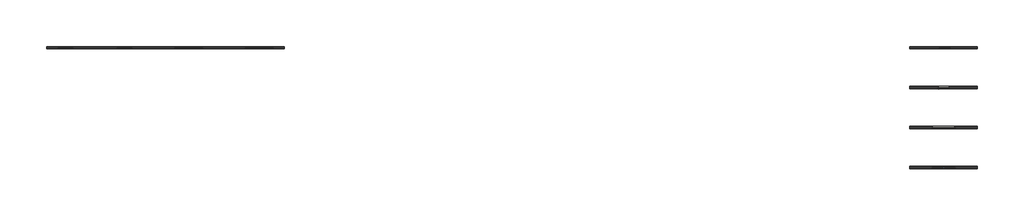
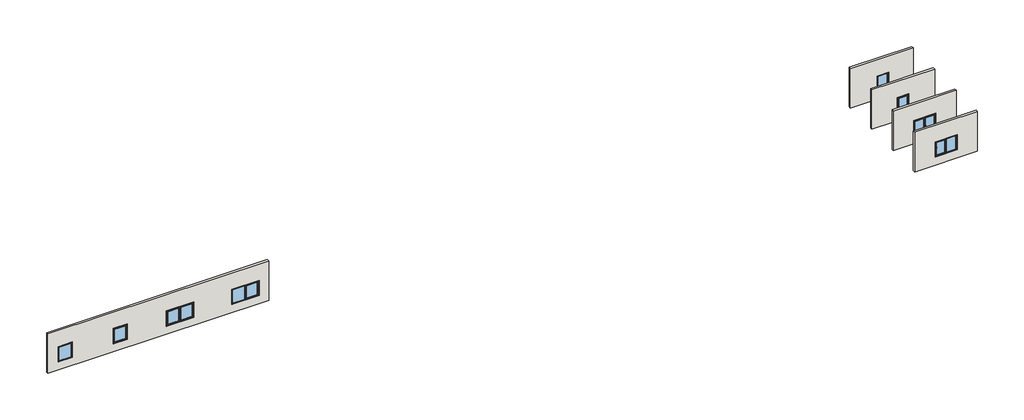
# One storey: 8 windows, 5 walls.
"""IFC4 building model written with IfcOpenShell, lengths in millimetres."""

from ifc_helpers import new_model, si_unit, origin, place, context, project, spatial, faceted_brep, transform, mapped, element, save
from components import window_3e6d08a6, window_15dccdcc, window_7635d953, window_dae34335, window_5ffe221b, window_7be41690, window_c8762d69, window_15d47e13

model = new_model("IFC4")

# Units and contexts
model_context = context("Model", 3, world=origin())
ifc_project = project(units=[si_unit("LENGTHUNIT", "METRE", prefix="MILLI")], contexts=[model_context])

# Site, building, storey
site = spatial("IfcSite", under=ifc_project)
building = spatial("IfcBuilding", under=site)
storey = spatial("IfcBuildingStorey", under=building, Name="REY 01 - Overview Windows", Elevation=0.0)

# Walls
placement = place(None, origin())
element("IfcWall", 1, ObjectType="21_SPM_90-30-80-140-10", at=placement, inside=storey, context=model_context, shape_type="Brep", body=[
    faceted_brep([(-8715.6752344, 9335.7590232, 0.0), (12384.3247656, 9335.7590232, 0.0), (12384.3247656, 9335.7590232, 4000.0), (-8715.6752344, 9335.7590232, 4000.0), (-1103.1752344, 9335.7590232, 800.0), (-2453.1752344, 9335.7590232, 800.0), (-2453.1752344, 9335.7590232, 2350.0), (-1103.1752344, 9335.7590232, 2350.0), (-6355.6752344, 9335.7590232, 800.0), (-7705.6752344, 9335.7590232, 800.0), (-7705.6752344, 9335.7590232, 2350.0), (-6355.6752344, 9335.7590232, 2350.0), (5221.8247656, 9335.7590232, 800.0), (2621.8247656, 9335.7590232, 800.0), (2621.8247656, 9335.7590232, 2350.0), (5221.8247656, 9335.7590232, 2350.0), (8871.8247656, 9335.7590232, 2350.0), (11471.8247656, 9335.7590232, 2350.0), (11471.8247656, 9335.7590232, 820.0), (8871.8247656, 9335.7590232, 820.0), (-8715.6752344, 9535.7590232, 0.0), (-8715.6752344, 9535.7590232, 4000.0), (12384.3247656, 9535.7590232, 4000.0), (12384.3247656, 9535.7590232, 0.0), (-1153.1752344, 9535.7590232, 2300.0), (-2403.1752344, 9535.7590232, 2300.0), (-2403.1752344, 9535.7590232, 800.0), (-1153.1752344, 9535.7590232, 800.0), (-6405.6752344, 9535.7590232, 2300.0), (-7655.6752344, 9535.7590232, 2300.0), (-7655.6752344, 9535.7590232, 800.0), (-6405.6752344, 9535.7590232, 800.0), (5171.8247656, 9535.7590232, 2300.0), (2671.8247656, 9535.7590232, 2300.0), (2671.8247656, 9535.7590232, 800.0), (5171.8247656, 9535.7590232, 800.0), (11421.8247656, 9535.7590232, 2300.0), (8921.8247656, 9535.7590232, 2300.0), (8921.8247656, 9535.7590232, 800.0), (11421.8247656, 9535.7590232, 800.0), (-1153.1752344, 9445.7590232, 2300.0), (-2403.1752344, 9445.7590232, 2300.0), (-2403.1752344, 9445.7590232, 800.0), (-2453.1752344, 9445.7590232, 800.0), (-1103.1752344, 9445.7590232, 800.0), (-1153.1752344, 9445.7590232, 800.0), (-2453.1752344, 9445.7590232, 2350.0), (-1103.1752344, 9445.7590232, 2350.0), (-6405.6752344, 9445.7590232, 2300.0), (-7655.6752344, 9445.7590232, 2300.0), (-7655.6752344, 9445.7590232, 800.0), (-7705.6752344, 9445.7590232, 800.0), (-6355.6752344, 9445.7590232, 800.0), (-6405.6752344, 9445.7590232, 800.0), (-6355.6752344, 9445.7590232, 2350.0), (-7705.6752344, 9445.7590232, 2350.0), (5171.8247656, 9445.7590232, 2300.0), (2671.8247656, 9445.7590232, 2300.0), (2671.8247656, 9445.7590232, 800.0), (2621.8247656, 9445.7590232, 800.0), (5221.8247656, 9445.7590232, 800.0), (5171.8247656, 9445.7590232, 800.0), (5221.8247656, 9445.7590232, 2350.0), (2621.8247656, 9445.7590232, 2350.0), (11421.8247656, 9445.7590232, 2300.0), (8921.8247656, 9445.7590232, 2300.0), (8921.8247656, 9445.7590232, 800.0), (11421.8247656, 9445.7590232, 800.0), (11421.8247656, 9445.7590232, 820.0), (8921.8247656, 9445.7590232, 820.0), (8871.8247656, 9445.7590232, 2350.0), (11471.8247656, 9445.7590232, 2350.0), (11471.8247656, 9445.7590232, 820.0), (8871.8247656, 9445.7590232, 820.0)], [[[0, 1, 2, 3], [4, 5, 6, 7], [8, 9, 10, 11], [12, 13, 14, 15], [16, 17, 18, 19]], [[20, 21, 22, 23], [24, 25, 26, 27], [28, 29, 30, 31], [32, 33, 34, 35], [36, 37, 38, 39]], [[1, 0, 20, 23]], [[2, 1, 23, 22]], [[3, 2, 22, 21]], [[0, 3, 21, 20]], [[25, 24, 40, 41]], [[27, 26, 42, 43, 5, 4, 44, 45]], [[24, 27, 45, 40]], [[41, 42, 26, 25]], [[46, 47, 7, 6]], [[46, 43, 42, 41, 40, 45, 44, 47]], [[47, 44, 4, 7]], [[6, 5, 43, 46]], [[28, 48, 49, 29]], [[30, 50, 51, 9, 8, 52, 53, 31]], [[29, 49, 50, 30]], [[48, 28, 31, 53]], [[54, 11, 10, 55]], [[54, 55, 51, 50, 49, 48, 53, 52]], [[55, 10, 9, 51]], [[11, 54, 52, 8]], [[32, 56, 57, 33]], [[34, 58, 59, 13, 12, 60, 61, 35]], [[33, 57, 58, 34]], [[56, 32, 35, 61]], [[62, 15, 14, 63]], [[62, 63, 59, 58, 57, 56, 61, 60]], [[63, 14, 13, 59]], [[15, 62, 60, 12]], [[37, 36, 64, 65]], [[39, 38, 66, 67]], [[36, 39, 67, 68, 64]], [[66, 69, 68, 67]], [[65, 69, 66, 38, 37]], [[70, 71, 17, 16]], [[72, 68, 69, 73, 19, 18]], [[70, 73, 69, 65, 64, 68, 72, 71]], [[71, 72, 18, 17]], [[16, 19, 73, 70]]]),
])
element("IfcWall", 2, ObjectType="21_SPM_90-30-80-140-10", at=placement, inside=storey, context=model_context, shape_type="Brep", body=[
    faceted_brep([(67971.8247656, 5787.8975638, 0.0), (73971.8247656, 5787.8975638, 0.0), (73971.8247656, 5787.8975638, 4000.0), (67971.8247656, 5787.8975638, 4000.0), (71521.8247656, 5787.8975638, 800.0), (70421.8247656, 5787.8975638, 800.0), (70421.8247656, 5787.8975638, 2350.0), (71521.8247656, 5787.8975638, 2350.0), (67971.8247656, 5987.8975638, 0.0), (67971.8247656, 5987.8975638, 4000.0), (73971.8247656, 5987.8975638, 4000.0), (73971.8247656, 5987.8975638, 0.0), (71471.8247656, 5987.8975638, 2300.0), (70471.8247656, 5987.8975638, 2300.0), (70471.8247656, 5987.8975638, 800.0), (71471.8247656, 5987.8975638, 800.0), (71471.8247656, 5897.8975638, 2300.0), (70471.8247656, 5897.8975638, 2300.0), (70471.8247656, 5897.8975638, 800.0), (70421.8247656, 5897.8975638, 800.0), (71521.8247656, 5897.8975638, 800.0), (71471.8247656, 5897.8975638, 800.0), (71521.8247656, 5897.8975638, 2350.0), (70421.8247656, 5897.8975638, 2350.0)], [[[0, 1, 2, 3], [4, 5, 6, 7]], [[8, 9, 10, 11], [12, 13, 14, 15]], [[1, 0, 8, 11]], [[2, 1, 11, 10]], [[3, 2, 10, 9]], [[0, 3, 9, 8]], [[12, 16, 17, 13]], [[14, 18, 19, 5, 4, 20, 21, 15]], [[13, 17, 18, 14]], [[16, 12, 15, 21]], [[22, 7, 6, 23]], [[22, 23, 19, 18, 17, 16, 21, 20]], [[23, 6, 5, 19]], [[7, 22, 20, 4]]]),
])
element("IfcWall", 3, ObjectType="21_SPM_90-30-80-140-10", at=placement, inside=storey, context=model_context, shape_type="Brep", body=[
    faceted_brep([(67971.8247656, 9335.7590232, 0.0), (73971.8247656, 9335.7590232, 0.0), (73971.8247656, 9335.7590232, 4000.0), (67971.8247656, 9335.7590232, 4000.0), (71621.8247656, 9335.7590232, 800.0), (70521.8247656, 9335.7590232, 800.0), (70521.8247656, 9335.7590232, 2350.0), (71621.8247656, 9335.7590232, 2350.0), (67971.8247656, 9535.7590232, 0.0), (67971.8247656, 9535.7590232, 4000.0), (73971.8247656, 9535.7590232, 4000.0), (73971.8247656, 9535.7590232, 0.0), (71571.8247656, 9535.7590232, 2300.0), (70571.8247656, 9535.7590232, 2300.0), (70571.8247656, 9535.7590232, 800.0), (71571.8247656, 9535.7590232, 800.0), (71571.8247656, 9445.7590232, 2300.0), (70571.8247656, 9445.7590232, 2300.0), (70571.8247656, 9445.7590232, 800.0), (70521.8247656, 9445.7590232, 800.0), (71621.8247656, 9445.7590232, 800.0), (71571.8247656, 9445.7590232, 800.0), (71621.8247656, 9445.7590232, 2350.0), (70521.8247656, 9445.7590232, 2350.0)], [[[0, 1, 2, 3], [4, 5, 6, 7]], [[8, 9, 10, 11], [12, 13, 14, 15]], [[1, 0, 8, 11]], [[2, 1, 11, 10]], [[3, 2, 10, 9]], [[0, 3, 9, 8]], [[12, 16, 17, 13]], [[14, 18, 19, 5, 4, 20, 21, 15]], [[13, 17, 18, 14]], [[16, 12, 15, 21]], [[22, 7, 6, 23]], [[22, 23, 19, 18, 17, 16, 21, 20]], [[23, 6, 5, 19]], [[7, 22, 20, 4]]]),
])
element("IfcWall", 4, ObjectType="21_SPM_90-30-80-140-10", at=placement, inside=storey, context=model_context, shape_type="Brep", body=[
    faceted_brep([(67971.8247656, -1312.1024362, 0.0), (73971.8247656, -1312.1024362, 0.0), (73971.8247656, -1312.1024362, 4000.0), (67971.8247656, -1312.1024362, 4000.0), (69921.8247656, -1312.1024362, 2350.0), (72021.8247656, -1312.1024362, 2350.0), (72021.8247656, -1312.1024362, 820.0), (69921.8247656, -1312.1024362, 820.0), (67971.8247656, -1112.1024362, 0.0), (67971.8247656, -1112.1024362, 4000.0), (73971.8247656, -1112.1024362, 4000.0), (73971.8247656, -1112.1024362, 0.0), (71971.8247656, -1112.1024362, 2300.0), (69971.8247656, -1112.1024362, 2300.0), (69971.8247656, -1112.1024362, 800.0), (71971.8247656, -1112.1024362, 800.0), (71971.8247656, -1202.1024362, 2300.0), (69971.8247656, -1202.1024362, 2300.0), (69971.8247656, -1202.1024362, 800.0), (71971.8247656, -1202.1024362, 800.0), (69971.8247656, -1202.1024362, 820.0), (71971.8247656, -1202.1024362, 820.0), (72021.8247656, -1202.1024362, 2350.0), (69921.8247656, -1202.1024362, 2350.0), (69921.8247656, -1202.1024362, 820.0), (72021.8247656, -1202.1024362, 820.0)], [[[0, 1, 2, 3], [4, 5, 6, 7]], [[8, 9, 10, 11], [12, 13, 14, 15]], [[1, 0, 8, 11]], [[2, 1, 11, 10]], [[3, 2, 10, 9]], [[0, 3, 9, 8]], [[12, 16, 17, 13]], [[14, 18, 19, 15]], [[13, 17, 20, 18, 14]], [[19, 18, 20, 21]], [[16, 12, 15, 19, 21]], [[22, 5, 4, 23]], [[24, 7, 6, 25, 21, 20]], [[22, 23, 24, 20, 17, 16, 21, 25]], [[23, 4, 7, 24]], [[5, 22, 25, 6]]]),
])
element("IfcWall", 5, ObjectType="21_SPM_90-30-80-140-10", at=placement, inside=storey, context=model_context, shape_type="Brep", body=[
    faceted_brep([(67971.8247656, 2235.7590232, 0.0), (73971.8247656, 2235.7590232, 0.0), (73971.8247656, 2235.7590232, 4000.0), (67971.8247656, 2235.7590232, 4000.0), (72021.8247656, 2235.7590232, 800.0), (69921.8247656, 2235.7590232, 800.0), (69921.8247656, 2235.7590232, 2350.0), (72021.8247656, 2235.7590232, 2350.0), (67971.8247656, 2435.7590232, 0.0), (67971.8247656, 2435.7590232, 4000.0), (73971.8247656, 2435.7590232, 4000.0), (73971.8247656, 2435.7590232, 0.0), (71971.8247656, 2435.7590232, 2300.0), (69971.8247656, 2435.7590232, 2300.0), (69971.8247656, 2435.7590232, 800.0), (71971.8247656, 2435.7590232, 800.0), (71971.8247656, 2345.7590232, 2300.0), (69971.8247656, 2345.7590232, 2300.0), (69971.8247656, 2345.7590232, 800.0), (69921.8247656, 2345.7590232, 800.0), (72021.8247656, 2345.7590232, 800.0), (71971.8247656, 2345.7590232, 800.0), (72021.8247656, 2345.7590232, 2350.0), (69921.8247656, 2345.7590232, 2350.0)], [[[0, 1, 2, 3], [4, 5, 6, 7]], [[8, 9, 10, 11], [12, 13, 14, 15]], [[1, 0, 8, 11]], [[2, 1, 11, 10]], [[3, 2, 10, 9]], [[0, 3, 9, 8]], [[12, 16, 17, 13]], [[14, 18, 19, 5, 4, 20, 21, 15]], [[13, 17, 18, 14]], [[16, 12, 15, 21]], [[22, 7, 6, 23]], [[22, 23, 19, 18, 17, 16, 21, 20]], [[23, 6, 5, 19]], [[7, 22, 20, 4]]]),
])

# Windows
window_shape = window_3e6d08a6(model_context)
element("IfcWindow", 6, ObjectType="Reynaers_MasterLine 10_Window_Inward Opening_Single Vent : Reynaers_Masterline 10_Window_Inward Opening_Single Vent", at=placement, inside=storey, context=model_context, shape_type="MappedRepresentation", body=[
    mapped(window_shape, transform((-1778.1752344, 9435.7590232, 0.0), x_axis=(-1.0, 0.0, 0.0), y_axis=(0.0, -1.0, 0.0), z_axis=(0.0, 0.0, 1.0))),
])
window_2_shape = window_15dccdcc(model_context)
element("IfcWindow", 7, ObjectType="Reynaers_MasterLine 10_Window_Inward Opening_Single Vent : Reynaers_Masterline 10_Window_Inward Opening_Single Vent", at=placement, inside=storey, context=model_context, shape_type="MappedRepresentation", body=[
    mapped(window_2_shape, transform((70971.8247656, 5887.8975638, 0.0), x_axis=(1.0, 0.0, 0.0), y_axis=(0.0, 1.0, 0.0), z_axis=(0.0, 0.0, 1.0))),
])
window_3_shape = window_7635d953(model_context)
element("IfcWindow", 8, ObjectType="Reynaers_MasterLine 10_Window_Fixed_Single Vent : Reynaers_MasterLine 10_Window_Fixed_Single Vent", at=placement, inside=storey, context=model_context, shape_type="MappedRepresentation", body=[
    mapped(window_3_shape, transform((-7030.6752344, 9430.9590232, 0.0), x_axis=(1.0, 0.0, 0.0), y_axis=(0.0, 1.0, 0.0), z_axis=(0.0, 0.0, 1.0))),
])
window_4_shape = window_dae34335(model_context)
element("IfcWindow", 9, ObjectType="Reynaers_MasterLine 10_Window_Fixed_Single Vent : Reynaers_MasterLine 10_Window_Fixed_Single Vent", at=placement, inside=storey, context=model_context, shape_type="MappedRepresentation", body=[
    mapped(window_4_shape, transform((71071.8247656, 9430.9590232, 0.0), x_axis=(1.0, 0.0, 0.0), y_axis=(0.0, 1.0, 0.0), z_axis=(0.0, 0.0, 1.0))),
])
window_5_shape = window_5ffe221b(model_context)
element("IfcWindow", 10, ObjectType="Reynaers_MasterLine 10_Window_Inward Opening_Combined : Reynaers_MasterLine 10_Window_Inward Opening_Combined", at=placement, inside=storey, context=model_context, shape_type="MappedRepresentation", body=[
    mapped(window_5_shape, transform((10171.8247656, 9435.7590232, 0.0), x_axis=(-1.0, 0.0, 0.0), y_axis=(0.0, -1.0, 0.0), z_axis=(0.0, 0.0, 1.0))),
])
window_6_shape = window_7be41690(model_context)
element("IfcWindow", 11, ObjectType="Reynaers_MasterLine 10_Window_Inward Opening_Combined : Reynaers_MasterLine 10_Window_Inward Opening_Combined", at=placement, inside=storey, context=model_context, shape_type="MappedRepresentation", body=[
    mapped(window_6_shape, transform((70971.8247656, -1212.1024362, 0.0), x_axis=(1.0, 0.0, 0.0), y_axis=(0.0, 1.0, 0.0), z_axis=(0.0, 0.0, 1.0))),
])
window_7_shape = window_c8762d69(model_context)
element("IfcWindow", 12, ObjectType="Reynaers_MasterLine 10_Window_Inward Opening_Double Vent : Reynaers_MasterLine 10_Window_Inward Opening_Double Vent", at=placement, inside=storey, context=model_context, shape_type="MappedRepresentation", body=[
    mapped(window_7_shape, transform((3921.8247656, 9435.7590232, 0.0), x_axis=(1.0, 0.0, 0.0), y_axis=(0.0, 1.0, 0.0), z_axis=(0.0, 0.0, 1.0))),
])
window_8_shape = window_15d47e13(model_context)
element("IfcWindow", 13, ObjectType="Reynaers_MasterLine 10_Window_Inward Opening_Double Vent : Reynaers_MasterLine 10_Window_Inward Opening_Double Vent", at=placement, inside=storey, context=model_context, shape_type="MappedRepresentation", body=[
    mapped(window_8_shape, transform((70971.8247656, 2335.7590232, 0.0), x_axis=(1.0, 0.0, 0.0), y_axis=(0.0, 1.0, 0.0), z_axis=(0.0, 0.0, 1.0))),
])

save(model, "model.ifc")
